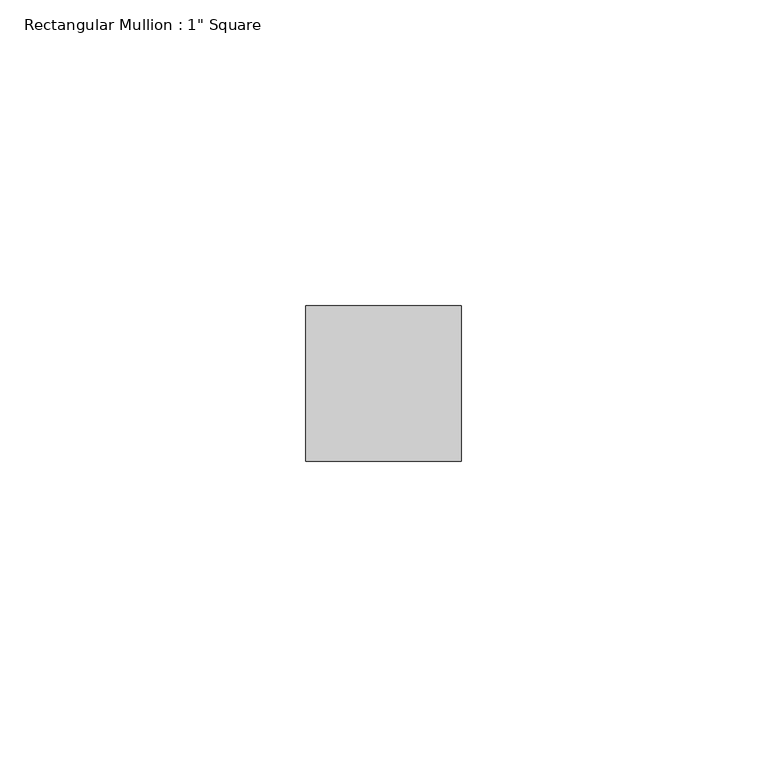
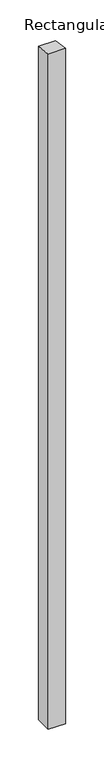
"""IFC4 building model written with IfcOpenShell, lengths in millimetres: member geometry."""

from ifc_helpers import new_model, si_unit, origin, place, context, project, spatial, faceted_brep, source, transform, mapped, element, save


def member_857f6deb(model_context):
    return source(origin(), model_context, "Body", "Brep", [
        faceted_brep([(0.0, 12.7, -1064.2762022), (0.0, -12.7, -1064.2762022), (-25.4, -12.7, -1064.2762022), (-25.4, 12.7, -1064.2762022), (-25.4, 12.7, -1.5499257), (0.0, 12.7, -1.4403271), (-25.4, -12.7, 1.3307284), (0.0, -12.7, 1.4403271)], [[[0, 1, 2, 3]], [[4, 5, 0, 3]], [[6, 4, 3, 2]], [[7, 6, 2, 1]], [[5, 7, 1, 0]], [[5, 4, 6, 7]]]),
    ])


if __name__ == "__main__":
    model = new_model("IFC4")
    model_context = context("Model", 3, world=origin())
    ifc_project = project(units=[si_unit("LENGTHUNIT", "METRE", prefix="MILLI")], contexts=[model_context])
    site = spatial("IfcSite", under=ifc_project)
    building = spatial("IfcBuilding", under=site)
    placement = place(None, origin())
    member_shape = member_857f6deb(model_context)
    element("IfcMember", 1, ObjectType="Rectangular Mullion : 1\" Square", at=placement, inside=building, context=model_context, shape_type="MappedRepresentation", body=[
        mapped(member_shape, transform((0.0, 0.0, 0.0), x_axis=(1.0, 0.0, 0.0), y_axis=(0.0, 1.0, 0.0), z_axis=(0.0, 0.0, 1.0))),
    ])
    save(model, "model.ifc")
